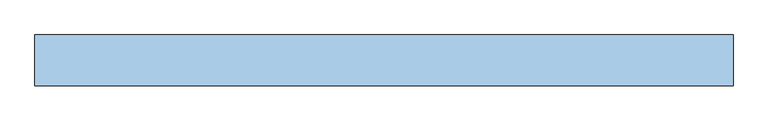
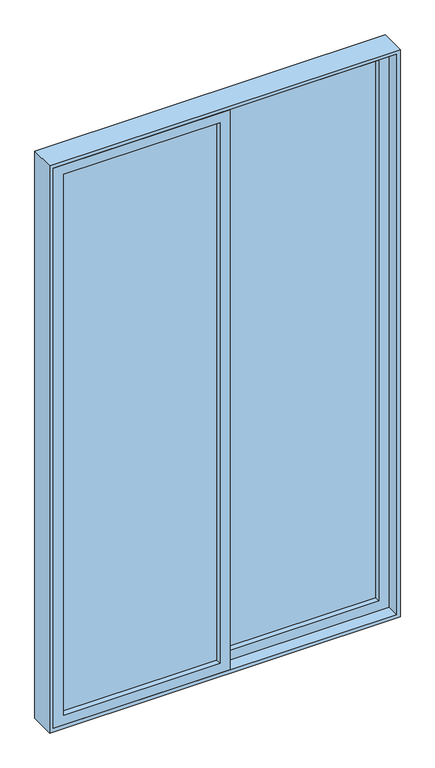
"""IFC4 building model written with IfcOpenShell, lengths in millimetres: window geometry, VENT_ALUM_CORR_2HOJAS_CORRE 1 : V15-VENT_ALUM_CORR_2HOJAS_CORRE 3 - SALIDA PH 2."""

from ifc_helpers import new_model, si_unit, frame, origin, place, context, project, spatial, polyline, outline, extrude, source, transform, mapped, element, save


def window_25ba4c91(model_context):
    return source(origin(), model_context, "Body", "SweptSolid", [
        extrude(outline(polyline([(-20.0, -28.0), (-632.5, -28.0), (-632.5, -22.0), (-20.0, -22.0), (-20.0, -28.0)])), frame((0.0, 0.0, 55.0), z_axis=(0.0, 0.0, 1.0), x_axis=(1.0, 0.0, 0.0)), (0.0, 0.0, 1.0), 2240.0),
        extrude(outline(polyline([(15.0, -672.5), (15.0, 20.0), (2335.0, 20.0), (2335.0, -672.5), (15.0, -672.5)]), holes=[polyline([(2295.0, -632.5), (2295.0, -20.0), (55.0, -20.0), (55.0, -632.5), (2295.0, -632.5)])]), frame((0.0, -50.0, 0.0), z_axis=(0.0, 1.0, 0.0), x_axis=(0.0, 0.0, 1.0)), (0.0, 0.0, 1.0), 50.0),
        extrude(outline(polyline([(20.0, 28.0), (632.5, 28.0), (632.5, 22.0), (20.0, 22.0), (20.0, 28.0)])), frame((0.0, 0.0, 55.0), z_axis=(0.0, 0.0, 1.0), x_axis=(1.0, 0.0, 0.0)), (0.0, 0.0, 1.0), 2240.0),
        extrude(outline(polyline([(15.0, -20.0), (15.0, 672.5), (2335.0, 672.5), (2335.0, -20.0), (15.0, -20.0)]), holes=[polyline([(2295.0, 20.0), (2295.0, 632.5), (55.0, 632.5), (55.0, 20.0), (2295.0, 20.0)])]), frame((0.0, 0.0, 0.0), z_axis=(0.0, 1.0, 0.0), x_axis=(0.0, 0.0, 1.0)), (0.0, 0.0, 1.0), 50.0),
        extrude(outline(polyline([(0.0, -687.5), (0.0, 687.5), (2350.0, 687.5), (2350.0, -687.5), (0.0, -687.5)]), holes=[polyline([(2335.0, -672.5), (2335.0, 672.5), (15.0, 672.5), (15.0, -672.5), (2335.0, -672.5)])]), frame((0.0, -50.0, 0.0), z_axis=(0.0, 1.0, 0.0), x_axis=(0.0, 0.0, 1.0)), (0.0, 0.0, 1.0), 100.0),
    ])


if __name__ == "__main__":
    model = new_model("IFC4")
    model_context = context("Model", 3, world=origin())
    ifc_project = project(units=[si_unit("LENGTHUNIT", "METRE", prefix="MILLI")], contexts=[model_context])
    site = spatial("IfcSite", under=ifc_project)
    building = spatial("IfcBuilding", under=site)
    placement = place(None, origin())
    window_shape = window_25ba4c91(model_context)
    element("IfcWindow", 1, ObjectType="VENT_ALUM_CORR_2HOJAS_CORRE 1 : V15-VENT_ALUM_CORR_2HOJAS_CORRE 3 - SALIDA PH 2", at=placement, inside=building, context=model_context, shape_type="MappedRepresentation", body=[
        mapped(window_shape, transform((0.0, 0.0, 0.0), x_axis=(1.0, 0.0, 0.0), y_axis=(0.0, 1.0, 0.0), z_axis=(0.0, 0.0, 1.0))),
    ])
    save(model, "model.ifc")
